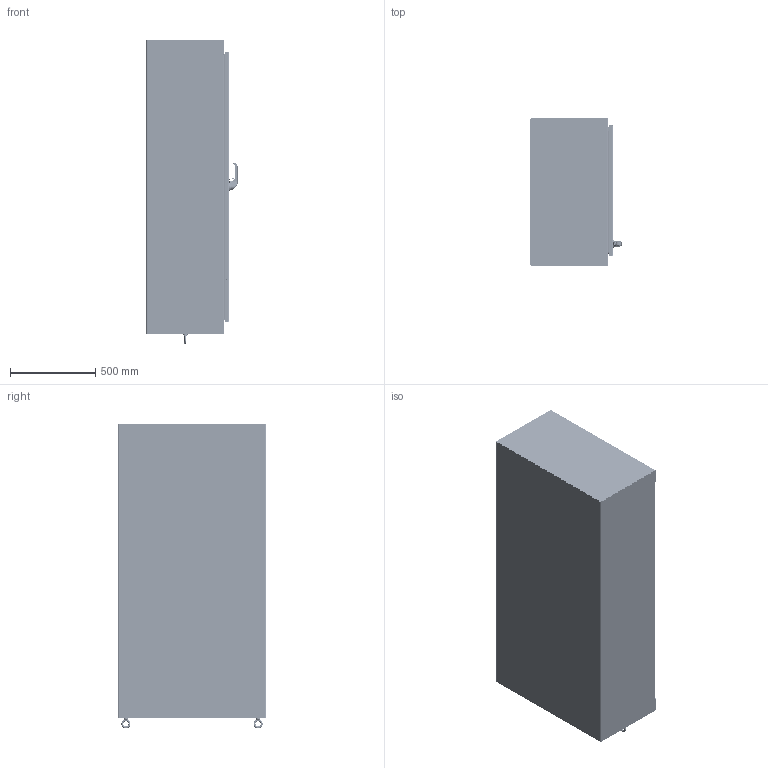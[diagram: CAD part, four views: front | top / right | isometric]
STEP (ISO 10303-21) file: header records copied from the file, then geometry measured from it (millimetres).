
FILE_DESCRIPTION((''),'2;1');
FILE_NAME('MODEL-461_ASM','2024-03-12T15:13:16',('mikek'),('SAGINAW CONTROL & ENGINEERING'),'CREO PARAMETRIC BY PTC INC, 2021284','CREO PARAMETRIC BY PTC INC, 2021284','');
FILE_SCHEMA(('AUTOMOTIVE_DESIGN { 1 0 10303 214 1 1 1 1 }'));
Length unit declared in the file: inch
Products named in the file (59): MODEL-461-L-SD; MODEL-461-TP; MODEL-461-R-SD; MODEL-461-BTM; MODEL-461-DR; 100837; 111267; 100882; 100953_HANDLE; 100953_HANDLE_INSERT; 100953_SHAFT_CAM; 100953_ADAPTER_CAM; 100953_NUT_CAM; 100953_BASE; 100953_O-RING; 100953_WASHER_SEALING; 100953_NUT_MOUNTING_LARGE; 100953_NUT_MOUNTING_SMALL; 100953_SCREW_SMALL; 100953_INSERT; 100953_PADLOCK_CATCH; 100953_ASM; 102237; 100030; 102237_ASM; MODEL-461-ROD-UPR; 128146; 128145; 128144; 102482; MODEL-461-ROD-UPR_ASM; 128143; 112504; MODEL-461-ROD-LWR; MODEL-461-ROD-LWR_ASM; MODEL-461-PR-GSKT; 128258; 128258_ASM; 126395; 102483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
Assembly tree (117 placements, depth 4):
  MODEL-461_ASM
    MODEL-461-L-SD
    MODEL-461-TP
    MODEL-461-R-SD
    MODEL-461-BTM
    MODEL-461-DOOR-ASSY_ASM
      MODEL-461-DR
      100837  x7
      111267
      100882  x12
      100953_ASM
        100953_HANDLE
        100953_HANDLE_INSERT
        100953_SHAFT_CAM
        100953_ADAPTER_CAM
        100953_NUT_CAM
        100953_BASE
        100953_O-RING
        100953_WASHER_SEALING
        100953_NUT_MOUNTING_LARGE
        100953_NUT_MOUNTING_SMALL
        100953_SCREW_SMALL
        100953_INSERT
        100953_PADLOCK_CATCH
      102237_ASM
        102237
        100030  x2
      MODEL-461-ROD-UPR_ASM
        MODEL-461-ROD-UPR
        128146
        128145
        128144
        102482  x2
      128143  x2
      112504  x2
      MODEL-461-ROD-LWR_ASM
        MODEL-461-ROD-LWR
        128146
        128145
        128144
        102482  x2
      MODEL-461-PR-GSKT
      128258_ASM  x4
        128258
      126395  x4
      102483  x4
      101383_ASM  x4
        101383
        101383-STUD
      101221  x4
    100837  x4
    103357
    101653  x6
    MODEL-461-S-BRACE
    102245  x2
    121453
    130514  x2
    103286_ASM  x2
      100813
      108595
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Bounding box: 534.07 x 869.95 x 1788.36 mm (x, y, z)
Volume: 19907546.2 mm3; surface area: 14411311.5 mm2
Topology: 122 solids, 122 shells, 10081 faces, 26131 edges, 16302 vertices
Faces by surface type: plane 3510, cylinder 2615, bspline 2437, torus 638, cone 633, sphere 248
Entity records: 232406 total; most frequent: CARTESIAN_POINT 82097, ORIENTED_EDGE 22772, DIRECTION 21002, PRESENTATION_STYLE_ASSIGNMENT 11554, STYLED_ITEM 11408, EDGE_CURVE 11386, CURVE_STYLE 11338, AXIS2_PLACEMENT_3D 7896
